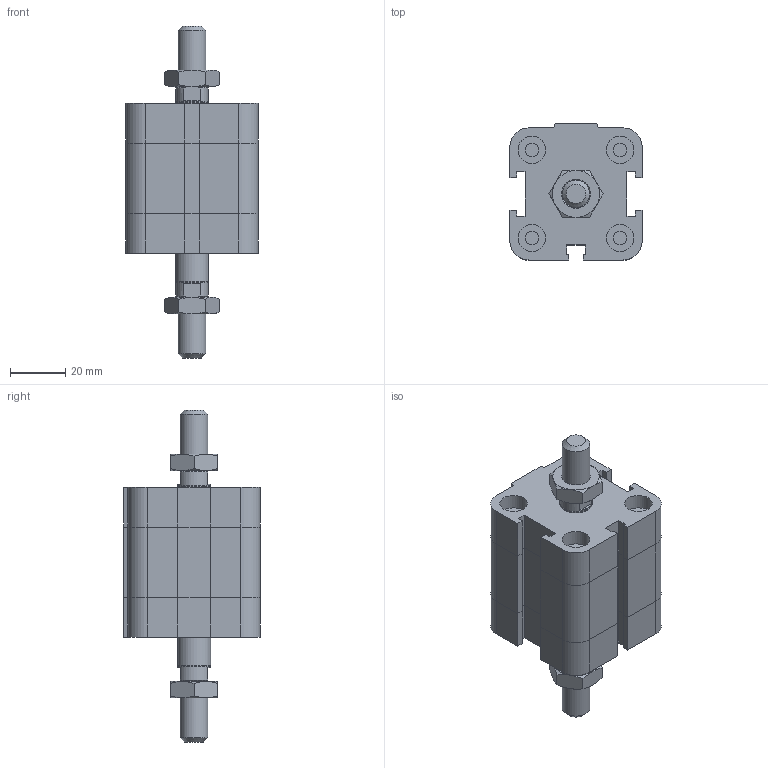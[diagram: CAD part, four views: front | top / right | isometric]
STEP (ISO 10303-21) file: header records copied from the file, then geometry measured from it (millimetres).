
FILE_DESCRIPTION((''),'2;1');
FILE_NAME('I:\Area Tecnica\Disegni\VARIE-3D\Componenti\EUROPE\15##_###_####_04_#\1581_32_0010_04_1.iam.stp','2009-04-20T14:50:50',(''),(''),'Autodesk Inventor 2009','Autodesk Inventor 2009','');
FILE_SCHEMA(('AUTOMOTIVE_DESIGN { 1 0 10303 214 1 1 1 1 }'));
Length unit declared in the file: millimetre
Products named in the file (4): 1581_32_0010_04_1; 1581_32_0010_03_1_C; 1561_32_0010_04_1_S; DBFM10
Assembly tree (4 placements, depth 2):
  1581_32_0010_04_1
    1581_32_0010_03_1_C
    1561_32_0010_04_1_S
    DBFM10  x2
Bounding box: 48 x 49.5 x 120.5 mm (x, y, z)
Volume: 115835.4 mm3; surface area: 28258.8 mm2
Topology: 4 solids, 4 shells, 222 faces, 483 edges, 289 vertices
Faces by surface type: plane 129, cone 35, bspline 33, cylinder 25
Full cylindrical faces by diameter (mm): 4.917 x4, 8.8 x1, 10 x5, 11.7 x2, 12 x1
Entity records: 5450 total; most frequent: CARTESIAN_POINT 1222, DIRECTION 802, ORIENTED_EDGE 772, EDGE_CURVE 386, AXIS2_PLACEMENT_3D 272, EDGE_LOOP 258, VECTOR 258, LINE 258
